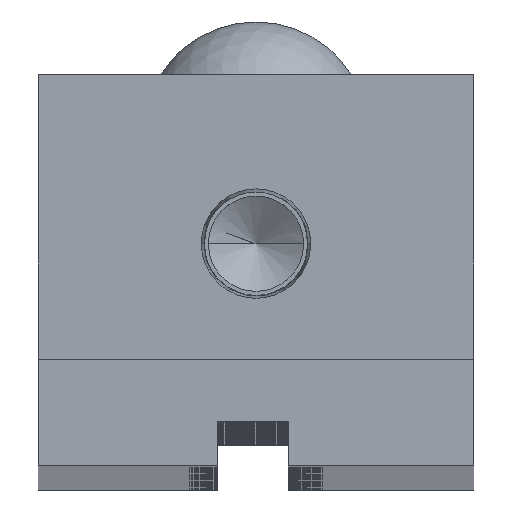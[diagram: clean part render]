
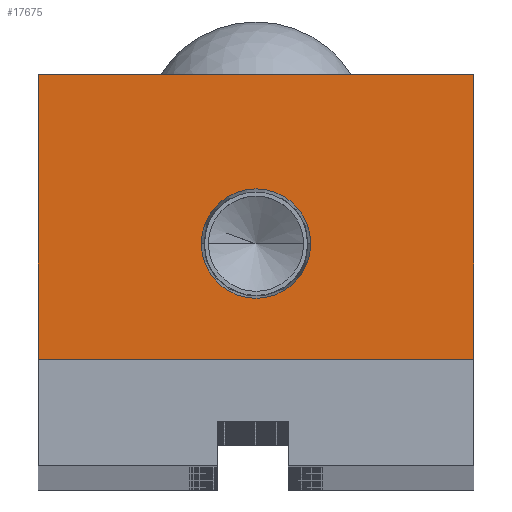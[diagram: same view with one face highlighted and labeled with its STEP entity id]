
A CAD part, top view. The second image highlights one B-rep face of the part: STEP entity #17675.
In plain terms, the highlighted planar face has unit normal (0, 0, 1).
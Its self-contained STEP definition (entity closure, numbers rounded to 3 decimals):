
#344 = EDGE_CURVE ( 'NONE', #19312, #31737, #13167, .T. ) ;
#383 = DIRECTION ( 'NONE',  ( -1., 0., 0. ) ) ;
#771 = CARTESIAN_POINT ( 'NONE',  ( 0., 13., 0. ) ) ;
#1503 = CARTESIAN_POINT ( 'NONE',  ( 24.5, 0., 0. ) ) ;
#1574 = AXIS2_PLACEMENT_3D ( 'NONE', #27738, #11334, #30491 ) ;
#1982 = CARTESIAN_POINT ( 'NONE',  ( 24.5, 32., 0. ) ) ;
#3117 = FACE_OUTER_BOUND ( 'NONE', #35551, .T. ) ;
#3311 = LINE ( 'NONE', #6189, #9744 ) ;
#3392 = DIRECTION ( 'NONE',  ( 0., 0., -1. ) ) ;
#3439 = DIRECTION ( 'NONE',  ( 0., -1., 0. ) ) ;
#3536 = DIRECTION ( 'NONE',  ( 1., 0., 0. ) ) ;
#3731 = EDGE_CURVE ( 'NONE', #5963, #16812, #25947, .T. ) ;
#4844 = CARTESIAN_POINT ( 'NONE',  ( 24.5, 0., 0. ) ) ;
#5013 = CARTESIAN_POINT ( 'NONE',  ( 6.154, 13., 0. ) ) ;
#5870 = VECTOR ( 'NONE', #383, 1000. ) ;
#5963 = VERTEX_POINT ( 'NONE', #5013 ) ;
#6189 = CARTESIAN_POINT ( 'NONE',  ( -24.5, 0., 0. ) ) ;
#6240 = EDGE_CURVE ( 'NONE', #31737, #6484, #3311, .T. ) ;
#6484 = VERTEX_POINT ( 'NONE', #23712 ) ;
#7992 = CARTESIAN_POINT ( 'NONE',  ( -24.5, 32., 0. ) ) ;
#8876 = EDGE_CURVE ( 'NONE', #21038, #19312, #22070, .T. ) ;
#9744 = VECTOR ( 'NONE', #3439, 1000. ) ;
#11334 = DIRECTION ( 'NONE',  ( 0., 0., 1. ) ) ;
#11554 = PLANE ( 'NONE',  #26792 ) ;
#12603 = CARTESIAN_POINT ( 'NONE',  ( 24.5, 32., 0. ) ) ;
#12995 = ORIENTED_EDGE ( 'NONE', *, *, #6240, .T. ) ;
#13167 = LINE ( 'NONE', #34764, #5870 ) ;
#15372 = DIRECTION ( 'NONE',  ( 0., 1., 0. ) ) ;
#16642 = ORIENTED_EDGE ( 'NONE', *, *, #344, .T. ) ;
#16812 = VERTEX_POINT ( 'NONE', #20503 ) ;
#17675 = ADVANCED_FACE ( 'NONE', ( #17742, #3117 ), #11554, .F. ) ;
#17742 = FACE_BOUND ( 'NONE', #24603, .T. ) ;
#18051 = LINE ( 'NONE', #1503, #24435 ) ;
#18652 = VECTOR ( 'NONE', #15372, 1000. ) ;
#19312 = VERTEX_POINT ( 'NONE', #1982 ) ;
#19838 = CARTESIAN_POINT ( 'NONE',  ( 0., 0., 0. ) ) ;
#19968 = DIRECTION ( 'NONE',  ( 0., 0., 1. ) ) ;
#20503 = CARTESIAN_POINT ( 'NONE',  ( -6.154, 13., 0. ) ) ;
#20771 = CIRCLE ( 'NONE', #1574, 6.154 ) ;
#20879 = EDGE_CURVE ( 'NONE', #6484, #21038, #18051, .T. ) ;
#21038 = VERTEX_POINT ( 'NONE', #4844 ) ;
#22070 = LINE ( 'NONE', #12603, #18652 ) ;
#22239 = ORIENTED_EDGE ( 'NONE', *, *, #29441, .F. ) ;
#22591 = DIRECTION ( 'NONE',  ( -1., 0., 0. ) ) ;
#23712 = CARTESIAN_POINT ( 'NONE',  ( -24.5, 0., 0. ) ) ;
#24435 = VECTOR ( 'NONE', #26209, 1000. ) ;
#24446 = ORIENTED_EDGE ( 'NONE', *, *, #3731, .F. ) ;
#24603 = EDGE_LOOP ( 'NONE', ( #24446, #22239 ) ) ;
#25947 = CIRCLE ( 'NONE', #31542, 6.154 ) ;
#26209 = DIRECTION ( 'NONE',  ( 1., 0., 0. ) ) ;
#26792 = AXIS2_PLACEMENT_3D ( 'NONE', #19838, #3392, #22591 ) ;
#27738 = CARTESIAN_POINT ( 'NONE',  ( 0., 13., 0. ) ) ;
#29441 = EDGE_CURVE ( 'NONE', #16812, #5963, #20771, .T. ) ;
#30491 = DIRECTION ( 'NONE',  ( 1., 0., 0. ) ) ;
#31542 = AXIS2_PLACEMENT_3D ( 'NONE', #771, #19968, #3536 ) ;
#31737 = VERTEX_POINT ( 'NONE', #7992 ) ;
#31977 = ORIENTED_EDGE ( 'NONE', *, *, #20879, .T. ) ;
#34764 = CARTESIAN_POINT ( 'NONE',  ( -24.5, 32., 0. ) ) ;
#35186 = ORIENTED_EDGE ( 'NONE', *, *, #8876, .T. ) ;
#35551 = EDGE_LOOP ( 'NONE', ( #12995, #31977, #35186, #16642 ) ) ;
